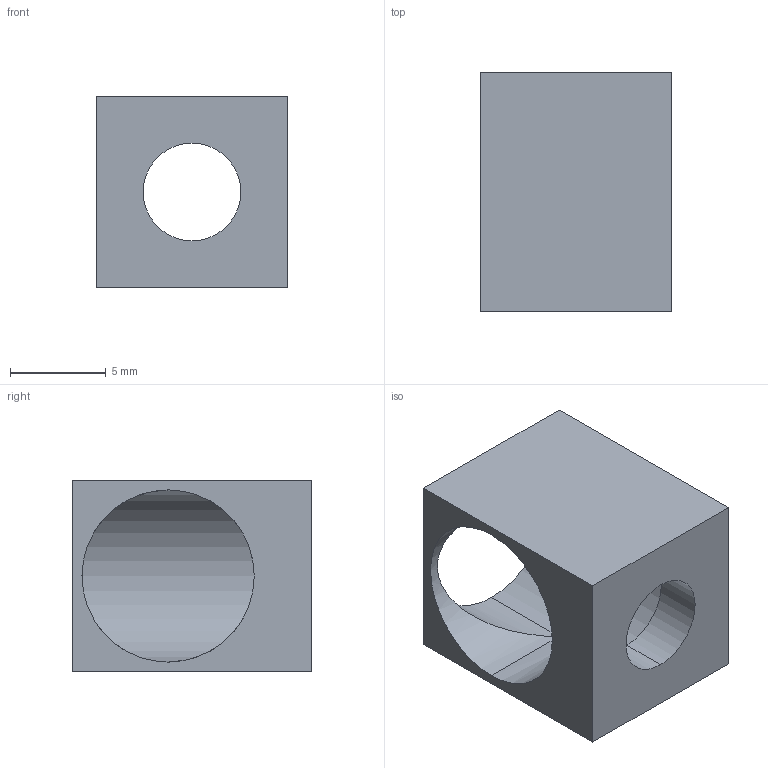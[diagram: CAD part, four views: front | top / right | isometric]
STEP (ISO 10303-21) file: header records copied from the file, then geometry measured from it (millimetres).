
FILE_DESCRIPTION (( 'STEP AP203' ), '1' );
FILE_NAME ('cuvette_top.STEP', '2023-03-24T22:58:30', ( '' ), ( '' ), 'SwSTEP 2.0', 'SolidWorks 2021', '' );
FILE_SCHEMA (( 'CONFIG_CONTROL_DESIGN' ));
Length unit declared in the file: millimetre
Products named in the file (1): cuvette_top
Bounding box: 10 x 12.5 x 10 mm (x, y, z)
Volume: 487.6 mm3; surface area: 897.7 mm2
Topology: 1 solids, 1 shells, 14 faces, 32 edges, 20 vertices
Faces by surface type: cylinder 7, plane 7
Entity records: 479 total; most frequent: CARTESIAN_POINT 73, DIRECTION 70, ORIENTED_EDGE 64, EDGE_CURVE 32, AXIS2_PLACEMENT_3D 25, LINE 20, VERTEX_POINT 20, VECTOR 20
